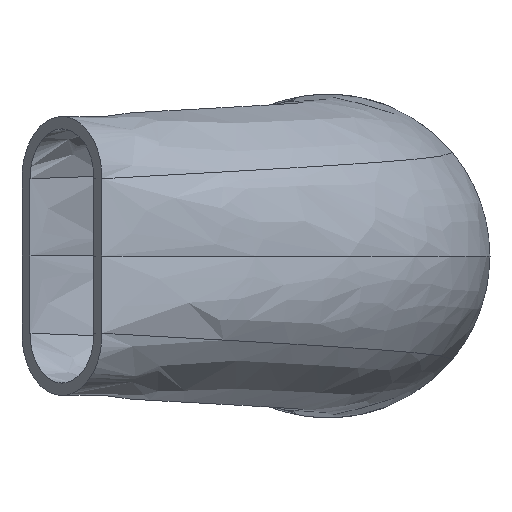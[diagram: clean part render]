
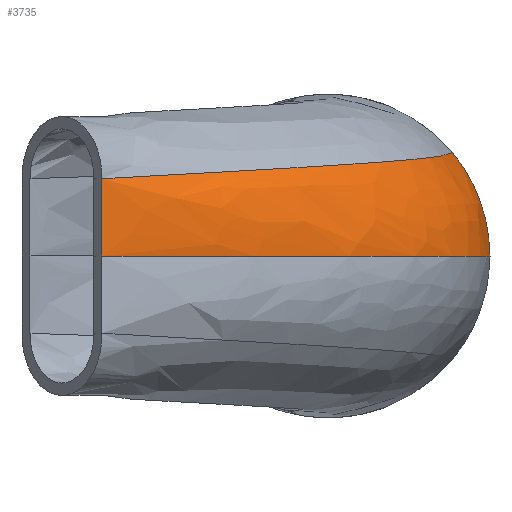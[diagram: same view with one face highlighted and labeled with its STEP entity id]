
A CAD part, front view. The second image highlights one B-rep face of the part: STEP entity #3735.
In plain terms, the highlighted free-form (B-spline) face has degree [3, 3] with [5, 15] control points.
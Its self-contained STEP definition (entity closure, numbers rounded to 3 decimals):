
#81=B_SPLINE_SURFACE_WITH_KNOTS('',3,3,((#5187,#5188,#5189,#5190,#5191,
#5192,#5193,#5194,#5195,#5196,#5197,#5198,#5199,#5200,#5201),(#5202,#5203,
#5204,#5205,#5206,#5207,#5208,#5209,#5210,#5211,#5212,#5213,#5214,#5215,
#5216),(#5217,#5218,#5219,#5220,#5221,#5222,#5223,#5224,#5225,#5226,#5227,
#5228,#5229,#5230,#5231),(#5232,#5233,#5234,#5235,#5236,#5237,#5238,#5239,
#5240,#5241,#5242,#5243,#5244,#5245,#5246),(#5247,#5248,#5249,#5250,#5251,
#5252,#5253,#5254,#5255,#5256,#5257,#5258,#5259,#5260,#5261)),
 .UNSPECIFIED.,.F.,.F.,.F.,(4,1,4),(4,1,1,1,1,1,1,1,1,1,1,1,4),(0.,0.214,
0.498),(0.,0.143,0.199,0.199,
0.286,0.378,0.378,0.429,
0.571,0.61,0.714,0.857,
1.),.UNSPECIFIED.);
#148=CIRCLE('',#3974,26.);
#149=CIRCLE('',#3975,26.);
#327=FACE_OUTER_BOUND('',#550,.T.);
#550=EDGE_LOOP('',(#2490,#2491,#2492,#2493,#2494));
#794=LINE('',#5284,#1040);
#1040=VECTOR('',#4295,10.);
#1283=B_SPLINE_CURVE_WITH_KNOTS('',3,(#5264,#5265,#5266,#5267,#5268,#5269,
#5270,#5271),.UNSPECIFIED.,.F.,.F.,(4,2,2,4),(-6.818,-3.016,
-1.562,0.),.UNSPECIFIED.);
#1284=B_SPLINE_CURVE_WITH_KNOTS('',3,(#5277,#5278,#5279,#5280,#5281,#5282,
#5283),.UNSPECIFIED.,.F.,.F.,(4,1,1,1,4),(0.,1.886,3.585,
5.789,9.491),.UNSPECIFIED.);
#1507=VERTEX_POINT('',#5262);
#1508=VERTEX_POINT('',#5263);
#1509=VERTEX_POINT('',#5272);
#1510=VERTEX_POINT('',#5274);
#1511=VERTEX_POINT('',#5276);
#1888=EDGE_CURVE('',#1507,#1508,#1283,.T.);
#1889=EDGE_CURVE('',#1509,#1508,#148,.T.);
#1890=EDGE_CURVE('',#1510,#1509,#149,.T.);
#1891=EDGE_CURVE('',#1510,#1511,#1284,.T.);
#1892=EDGE_CURVE('',#1511,#1507,#794,.T.);
#2490=ORIENTED_EDGE('',*,*,#1888,.T.);
#2491=ORIENTED_EDGE('',*,*,#1889,.F.);
#2492=ORIENTED_EDGE('',*,*,#1890,.F.);
#2493=ORIENTED_EDGE('',*,*,#1891,.T.);
#2494=ORIENTED_EDGE('',*,*,#1892,.T.);
#3735=ADVANCED_FACE('',(#327),#81,.F.);
#3974=AXIS2_PLACEMENT_3D('',#5273,#4291,#4292);
#3975=AXIS2_PLACEMENT_3D('',#5275,#4293,#4294);
#4291=DIRECTION('center_axis',(0.,1.,0.));
#4292=DIRECTION('ref_axis',(-1.,0.,-0.007));
#4293=DIRECTION('center_axis',(0.,1.,0.));
#4294=DIRECTION('ref_axis',(-1.,0.,-0.007));
#4295=DIRECTION('',(0.,0.,-1.));
#5187=CARTESIAN_POINT('Ctrl Pts',(406.975,699.624,427.627));
#5188=CARTESIAN_POINT('Ctrl Pts',(406.619,695.122,427.452));
#5189=CARTESIAN_POINT('Ctrl Pts',(405.997,688.769,427.204));
#5190=CARTESIAN_POINT('Ctrl Pts',(404.311,682.722,426.938));
#5191=CARTESIAN_POINT('Ctrl Pts',(402.814,678.472,426.742));
#5192=CARTESIAN_POINT('Ctrl Pts',(400.384,673.334,426.488));
#5193=CARTESIAN_POINT('Ctrl Pts',(397.13,668.616,426.224));
#5194=CARTESIAN_POINT('Ctrl Pts',(394.333,665.037,426.015));
#5195=CARTESIAN_POINT('Ctrl Pts',(390.391,660.325,425.732));
#5196=CARTESIAN_POINT('Ctrl Pts',(385.092,655.226,425.396));
#5197=CARTESIAN_POINT('Ctrl Pts',(378.266,649.297,424.987));
#5198=CARTESIAN_POINT('Ctrl Pts',(371.273,643.581,424.58));
#5199=CARTESIAN_POINT('Ctrl Pts',(361.47,636.103,424.03));
#5200=CARTESIAN_POINT('Ctrl Pts',(354.231,630.701,423.629));
#5201=CARTESIAN_POINT('Ctrl Pts',(350.636,627.969,423.429));
#5202=CARTESIAN_POINT('Ctrl Pts',(408.624,699.624,425.646));
#5203=CARTESIAN_POINT('Ctrl Pts',(408.362,695.37,425.48));
#5204=CARTESIAN_POINT('Ctrl Pts',(407.77,689.137,425.246));
#5205=CARTESIAN_POINT('Ctrl Pts',(406.016,683.002,424.994));
#5206=CARTESIAN_POINT('Ctrl Pts',(404.453,678.655,424.808));
#5207=CARTESIAN_POINT('Ctrl Pts',(401.906,673.329,424.565));
#5208=CARTESIAN_POINT('Ctrl Pts',(398.487,668.338,424.314));
#5209=CARTESIAN_POINT('Ctrl Pts',(395.546,664.531,424.115));
#5210=CARTESIAN_POINT('Ctrl Pts',(391.401,659.499,423.845));
#5211=CARTESIAN_POINT('Ctrl Pts',(385.833,654.018,423.525));
#5212=CARTESIAN_POINT('Ctrl Pts',(378.697,647.76,423.135));
#5213=CARTESIAN_POINT('Ctrl Pts',(371.424,641.852,422.748));
#5214=CARTESIAN_POINT('Ctrl Pts',(361.376,634.628,422.225));
#5215=CARTESIAN_POINT('Ctrl Pts',(354.153,630.064,421.844));
#5216=CARTESIAN_POINT('Ctrl Pts',(350.636,627.969,421.653));
#5217=CARTESIAN_POINT('Ctrl Pts',(411.778,699.624,420.446));
#5218=CARTESIAN_POINT('Ctrl Pts',(411.796,695.743,420.325));
#5219=CARTESIAN_POINT('Ctrl Pts',(411.337,690.129,420.151));
#5220=CARTESIAN_POINT('Ctrl Pts',(409.793,684.53,419.966));
#5221=CARTESIAN_POINT('Ctrl Pts',(408.428,680.534,419.829));
#5222=CARTESIAN_POINT('Ctrl Pts',(406.22,675.583,419.653));
#5223=CARTESIAN_POINT('Ctrl Pts',(403.203,670.809,419.47));
#5224=CARTESIAN_POINT('Ctrl Pts',(400.549,667.099,419.324));
#5225=CARTESIAN_POINT('Ctrl Pts',(396.768,662.143,419.127));
#5226=CARTESIAN_POINT('Ctrl Pts',(391.472,656.53,418.892));
#5227=CARTESIAN_POINT('Ctrl Pts',(384.293,649.958,418.604));
#5228=CARTESIAN_POINT('Ctrl Pts',(376.63,643.639,418.317));
#5229=CARTESIAN_POINT('Ctrl Pts',(365.069,635.67,417.93));
#5230=CARTESIAN_POINT('Ctrl Pts',(355.635,630.435,417.649));
#5231=CARTESIAN_POINT('Ctrl Pts',(350.636,627.969,417.51));
#5232=CARTESIAN_POINT('Ctrl Pts',(412.988,699.624,414.435));
#5233=CARTESIAN_POINT('Ctrl Pts',(413.21,695.798,414.389));
#5234=CARTESIAN_POINT('Ctrl Pts',(412.877,690.797,414.322));
#5235=CARTESIAN_POINT('Ctrl Pts',(411.737,686.069,414.254));
#5236=CARTESIAN_POINT('Ctrl Pts',(410.756,682.716,414.205));
#5237=CARTESIAN_POINT('Ctrl Pts',(409.212,678.6,414.142));
#5238=CARTESIAN_POINT('Ctrl Pts',(407.031,674.597,414.079));
#5239=CARTESIAN_POINT('Ctrl Pts',(405.02,671.424,414.027));
#5240=CARTESIAN_POINT('Ctrl Pts',(402.093,667.138,413.958));
#5241=CARTESIAN_POINT('Ctrl Pts',(397.645,662.026,413.873));
#5242=CARTESIAN_POINT('Ctrl Pts',(390.965,655.623,413.768));
#5243=CARTESIAN_POINT('Ctrl Pts',(383.289,649.096,413.663));
#5244=CARTESIAN_POINT('Ctrl Pts',(370.157,639.682,413.52));
#5245=CARTESIAN_POINT('Ctrl Pts',(357.749,632.061,413.417));
#5246=CARTESIAN_POINT('Ctrl Pts',(350.636,627.969,413.366));
#5247=CARTESIAN_POINT('Ctrl Pts',(412.988,699.624,410.998));
#5248=CARTESIAN_POINT('Ctrl Pts',(413.21,695.798,410.998));
#5249=CARTESIAN_POINT('Ctrl Pts',(412.876,690.798,410.998));
#5250=CARTESIAN_POINT('Ctrl Pts',(411.736,686.07,410.998));
#5251=CARTESIAN_POINT('Ctrl Pts',(410.756,682.716,410.998));
#5252=CARTESIAN_POINT('Ctrl Pts',(409.212,678.601,410.998));
#5253=CARTESIAN_POINT('Ctrl Pts',(407.031,674.598,410.998));
#5254=CARTESIAN_POINT('Ctrl Pts',(405.02,671.424,410.998));
#5255=CARTESIAN_POINT('Ctrl Pts',(402.093,667.138,410.998));
#5256=CARTESIAN_POINT('Ctrl Pts',(397.645,662.027,410.998));
#5257=CARTESIAN_POINT('Ctrl Pts',(390.965,655.623,410.998));
#5258=CARTESIAN_POINT('Ctrl Pts',(383.289,649.097,410.998));
#5259=CARTESIAN_POINT('Ctrl Pts',(370.156,639.682,410.998));
#5260=CARTESIAN_POINT('Ctrl Pts',(357.749,632.061,410.998));
#5261=CARTESIAN_POINT('Ctrl Pts',(350.636,627.969,410.998));
#5262=CARTESIAN_POINT('',(350.636,627.969,410.998));
#5263=CARTESIAN_POINT('',(412.988,699.624,410.998));
#5264=CARTESIAN_POINT('Ctrl Pts',(350.636,627.969,410.998));
#5265=CARTESIAN_POINT('Ctrl Pts',(375.203,642.103,410.998));
#5266=CARTESIAN_POINT('Ctrl Pts',(391.824,654.541,410.998));
#5267=CARTESIAN_POINT('Ctrl Pts',(405.468,671.636,410.998));
#5268=CARTESIAN_POINT('Ctrl Pts',(408.627,676.822,410.998));
#5269=CARTESIAN_POINT('Ctrl Pts',(412.8,688.684,410.998));
#5270=CARTESIAN_POINT('Ctrl Pts',(413.29,694.427,410.998));
#5271=CARTESIAN_POINT('Ctrl Pts',(412.988,699.624,410.998));
#5272=CARTESIAN_POINT('',(411.609,699.624,419.354));
#5273=CARTESIAN_POINT('Origin',(386.988,699.624,410.998));
#5274=CARTESIAN_POINT('',(406.975,699.624,427.627));
#5275=CARTESIAN_POINT('Origin',(386.988,699.624,410.998));
#5276=CARTESIAN_POINT('',(350.636,627.969,423.429));
#5277=CARTESIAN_POINT('Ctrl Pts',(406.975,699.624,427.627));
#5278=CARTESIAN_POINT('Ctrl Pts',(406.48,693.361,427.383));
#5279=CARTESIAN_POINT('Ctrl Pts',(405.201,681.218,426.909));
#5280=CARTESIAN_POINT('Ctrl Pts',(394.917,664.388,426.009));
#5281=CARTESIAN_POINT('Ctrl Pts',(376.405,646.958,424.849));
#5282=CARTESIAN_POINT('Ctrl Pts',(360.451,635.429,423.976));
#5283=CARTESIAN_POINT('Ctrl Pts',(350.636,627.969,423.429));
#5284=CARTESIAN_POINT('',(350.636,627.969,398.429));
